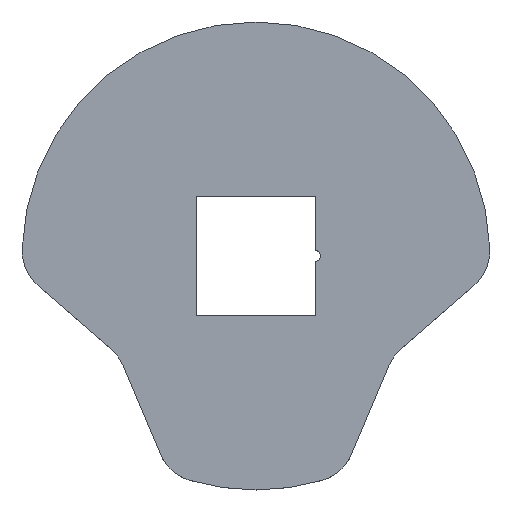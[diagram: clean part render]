
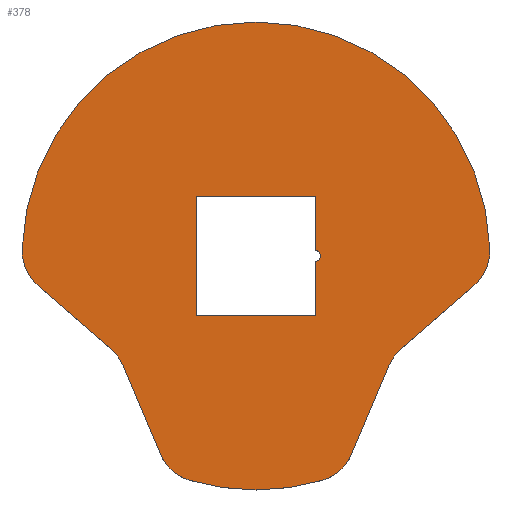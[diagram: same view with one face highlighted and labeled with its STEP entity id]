
A CAD part, top view. The second image highlights one B-rep face of the part: STEP entity #378.
In plain terms, the highlighted planar face has unit normal (0, 0, 1).
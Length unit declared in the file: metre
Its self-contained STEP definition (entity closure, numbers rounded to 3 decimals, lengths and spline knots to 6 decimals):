
#12=CIRCLE('',#399,0.02);
#14=CIRCLE('',#402,0.004);
#16=CIRCLE('',#406,0.004);
#18=CIRCLE('',#410,0.004);
#20=CIRCLE('',#413,0.02);
#22=CIRCLE('',#416,0.004);
#24=CIRCLE('',#420,0.004);
#26=CIRCLE('',#424,0.004);
#29=CIRCLE('',#429,0.0005);
#109=ORIENTED_EDGE('',*,*,#192,.F.);
#110=ORIENTED_EDGE('',*,*,#150,.T.);
#111=ORIENTED_EDGE('',*,*,#193,.F.);
#112=ORIENTED_EDGE('',*,*,#194,.F.);
#113=ORIENTED_EDGE('',*,*,#195,.T.);
#114=ORIENTED_EDGE('',*,*,#196,.T.);
#115=ORIENTED_EDGE('',*,*,#151,.T.);
#116=ORIENTED_EDGE('',*,*,#155,.T.);
#117=ORIENTED_EDGE('',*,*,#158,.F.);
#118=ORIENTED_EDGE('',*,*,#161,.F.);
#119=ORIENTED_EDGE('',*,*,#164,.F.);
#120=ORIENTED_EDGE('',*,*,#167,.T.);
#121=ORIENTED_EDGE('',*,*,#170,.T.);
#122=ORIENTED_EDGE('',*,*,#173,.T.);
#123=ORIENTED_EDGE('',*,*,#176,.F.);
#124=ORIENTED_EDGE('',*,*,#179,.F.);
#125=ORIENTED_EDGE('',*,*,#182,.F.);
#126=ORIENTED_EDGE('',*,*,#185,.T.);
#150=EDGE_CURVE('',#202,#204,#240,.T.);
#151=EDGE_CURVE('',#205,#206,#12,.T.);
#155=EDGE_CURVE('',#206,#209,#14,.T.);
#158=EDGE_CURVE('',#211,#209,#244,.T.);
#161=EDGE_CURVE('',#213,#211,#16,.T.);
#164=EDGE_CURVE('',#215,#213,#248,.T.);
#167=EDGE_CURVE('',#215,#217,#18,.T.);
#170=EDGE_CURVE('',#217,#219,#20,.T.);
#173=EDGE_CURVE('',#219,#221,#22,.T.);
#176=EDGE_CURVE('',#223,#221,#254,.T.);
#179=EDGE_CURVE('',#225,#223,#24,.T.);
#182=EDGE_CURVE('',#227,#225,#258,.T.);
#185=EDGE_CURVE('',#227,#205,#26,.T.);
#192=EDGE_CURVE('',#202,#233,#29,.T.);
#193=EDGE_CURVE('',#234,#204,#265,.T.);
#194=EDGE_CURVE('',#235,#234,#266,.T.);
#195=EDGE_CURVE('',#235,#236,#267,.T.);
#196=EDGE_CURVE('',#236,#233,#268,.T.);
#202=VERTEX_POINT('',#553);
#204=VERTEX_POINT('',#557);
#205=VERTEX_POINT('',#561);
#206=VERTEX_POINT('',#562);
#209=VERTEX_POINT('',#570);
#211=VERTEX_POINT('',#576);
#213=VERTEX_POINT('',#582);
#215=VERTEX_POINT('',#588);
#217=VERTEX_POINT('',#594);
#219=VERTEX_POINT('',#600);
#221=VERTEX_POINT('',#606);
#223=VERTEX_POINT('',#612);
#225=VERTEX_POINT('',#618);
#227=VERTEX_POINT('',#624);
#233=VERTEX_POINT('',#643);
#234=VERTEX_POINT('',#645);
#235=VERTEX_POINT('',#647);
#236=VERTEX_POINT('',#649);
#240=LINE('',#558,#276);
#244=LINE('',#575,#280);
#248=LINE('',#587,#284);
#254=LINE('',#611,#290);
#258=LINE('',#623,#294);
#265=LINE('',#644,#301);
#266=LINE('',#646,#302);
#267=LINE('',#648,#303);
#268=LINE('',#650,#304);
#276=VECTOR('',#442,1.);
#280=VECTOR('',#460,1.);
#284=VECTOR('',#472,1.);
#290=VECTOR('',#498,1.);
#294=VECTOR('',#510,1.);
#301=VECTOR('',#531,1.);
#302=VECTOR('',#532,1.);
#303=VECTOR('',#533,1.);
#304=VECTOR('',#534,1.);
#324=EDGE_LOOP('',(#109,#110,#111,#112,#113,#114));
#325=EDGE_LOOP('',(#115,#116,#117,#118,#119,#120,#121,#122,#123,#124,#125,
#126));
#346=FACE_BOUND('',#324,.T.);
#347=FACE_BOUND('',#325,.T.);
#359=PLANE('',#428);
#378=ADVANCED_FACE('',(#346,#347),#359,.T.);
#399=AXIS2_PLACEMENT_3D('',#560,#445,#446);
#402=AXIS2_PLACEMENT_3D('',#569,#453,#454);
#406=AXIS2_PLACEMENT_3D('',#581,#465,#466);
#410=AXIS2_PLACEMENT_3D('',#593,#477,#478);
#413=AXIS2_PLACEMENT_3D('',#599,#484,#485);
#416=AXIS2_PLACEMENT_3D('',#605,#491,#492);
#420=AXIS2_PLACEMENT_3D('',#617,#503,#504);
#424=AXIS2_PLACEMENT_3D('',#629,#515,#516);
#428=AXIS2_PLACEMENT_3D('',#641,#527,#528);
#429=AXIS2_PLACEMENT_3D('',#642,#529,#530);
#442=DIRECTION('',(0.,-1.,0.));
#445=DIRECTION('',(0.,0.,1.));
#446=DIRECTION('',(1.,0.,0.));
#453=DIRECTION('',(0.,0.,1.));
#454=DIRECTION('',(1.,0.,0.));
#460=DIRECTION('',(-0.39,-0.921,0.));
#465=DIRECTION('',(0.,0.,1.));
#466=DIRECTION('',(1.,0.,0.));
#472=DIRECTION('',(-0.756,-0.655,0.));
#477=DIRECTION('',(0.,0.,1.));
#478=DIRECTION('',(1.,0.,0.));
#484=DIRECTION('',(0.,0.,1.));
#485=DIRECTION('',(1.,0.,0.));
#491=DIRECTION('',(0.,0.,1.));
#492=DIRECTION('',(1.,0.,0.));
#498=DIRECTION('',(-0.756,0.655,0.));
#503=DIRECTION('',(0.,0.,1.));
#504=DIRECTION('',(1.,0.,0.));
#510=DIRECTION('',(-0.39,0.921,0.));
#515=DIRECTION('',(0.,0.,1.));
#516=DIRECTION('',(1.,0.,0.));
#527=DIRECTION('',(0.,0.,1.));
#528=DIRECTION('',(1.,0.,0.));
#529=DIRECTION('',(0.,0.,1.));
#530=DIRECTION('',(1.,0.,0.));
#531=DIRECTION('',(1.,0.,0.));
#532=DIRECTION('',(0.,-1.,0.));
#533=DIRECTION('',(1.,0.,0.));
#534=DIRECTION('',(0.,-1.,0.));
#553=CARTESIAN_POINT('',(0.0051,-0.00049,0.0419));
#557=CARTESIAN_POINT('',(0.0051,-0.0051,0.0419));
#558=CARTESIAN_POINT('',(0.0051,0.,0.0419));
#560=CARTESIAN_POINT('',(0.,0.,0.0419));
#561=CARTESIAN_POINT('',(-0.005622,-0.019193,0.0419));
#562=CARTESIAN_POINT('',(0.005622,-0.019193,0.0419));
#569=CARTESIAN_POINT('',(0.004498,-0.015355,0.0419));
#570=CARTESIAN_POINT('',(0.008182,-0.016913,0.0419));
#575=CARTESIAN_POINT('',(0.009775,-0.013146,0.0419));
#576=CARTESIAN_POINT('',(0.011369,-0.009378,0.0419));
#581=CARTESIAN_POINT('',(0.015053,-0.010937,0.0419));
#582=CARTESIAN_POINT('',(0.012432,-0.007914,0.0419));
#587=CARTESIAN_POINT('',(0.015523,-0.005235,0.0419));
#588=CARTESIAN_POINT('',(0.018614,-0.002555,0.0419));
#593=CARTESIAN_POINT('',(0.015993,0.000467,0.0419));
#594=CARTESIAN_POINT('',(0.019991,0.000584,0.0419));
#599=CARTESIAN_POINT('',(0.,0.,0.0419));
#600=CARTESIAN_POINT('',(-0.019991,0.000584,0.0419));
#605=CARTESIAN_POINT('',(-0.015993,0.000467,0.0419));
#606=CARTESIAN_POINT('',(-0.018614,-0.002555,0.0419));
#611=CARTESIAN_POINT('',(-0.015523,-0.005235,0.0419));
#612=CARTESIAN_POINT('',(-0.012432,-0.007914,0.0419));
#617=CARTESIAN_POINT('',(-0.015053,-0.010937,0.0419));
#618=CARTESIAN_POINT('',(-0.011369,-0.009378,0.0419));
#623=CARTESIAN_POINT('',(-0.009775,-0.013146,0.0419));
#624=CARTESIAN_POINT('',(-0.008182,-0.016913,0.0419));
#629=CARTESIAN_POINT('',(-0.004498,-0.015355,0.0419));
#641=CARTESIAN_POINT('',(0.,0.,0.0419));
#642=CARTESIAN_POINT('',(0.005,0.,0.0419));
#643=CARTESIAN_POINT('',(0.0051,0.00049,0.0419));
#644=CARTESIAN_POINT('',(0.,-0.0051,0.0419));
#645=CARTESIAN_POINT('',(-0.0051,-0.0051,0.0419));
#646=CARTESIAN_POINT('',(-0.0051,0.,0.0419));
#647=CARTESIAN_POINT('',(-0.0051,0.0051,0.0419));
#648=CARTESIAN_POINT('',(0.,0.0051,0.0419));
#649=CARTESIAN_POINT('',(0.0051,0.0051,0.0419));
#650=CARTESIAN_POINT('',(0.0051,0.,0.0419));
